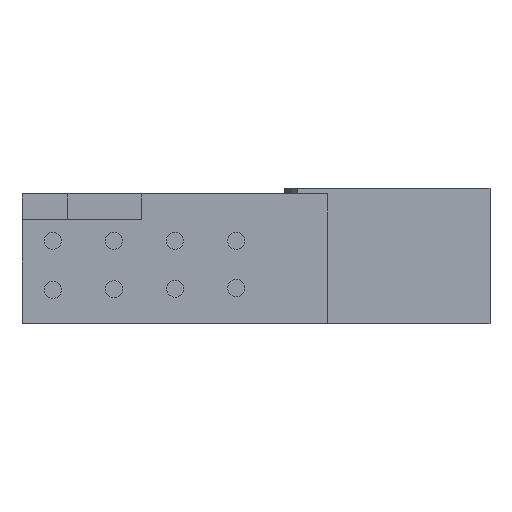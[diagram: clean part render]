
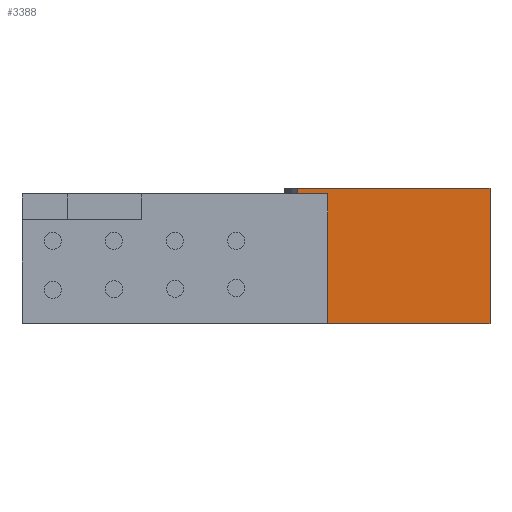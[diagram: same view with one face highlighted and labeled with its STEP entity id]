
A CAD part, left-side view. The second image highlights one B-rep face of the part: STEP entity #3388.
In plain terms, the highlighted planar face has unit normal (-1, 0, 0).
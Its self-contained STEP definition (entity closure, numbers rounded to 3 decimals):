
#20 = VECTOR ( 'NONE', #6863, 1000. ) ;
#66 = EDGE_CURVE ( 'NONE', #4797, #7690, #8136, .T. ) ;
#416 = VERTEX_POINT ( 'NONE', #1671 ) ;
#572 = LINE ( 'NONE', #6830, #4732 ) ;
#1093 = ORIENTED_EDGE ( 'NONE', *, *, #3346, .F. ) ;
#1283 = CARTESIAN_POINT ( 'NONE',  ( 18., -22.5, 6.2 ) ) ;
#1441 = CARTESIAN_POINT ( 'NONE',  ( 18., -27.5, -15. ) ) ;
#1671 = CARTESIAN_POINT ( 'NONE',  ( 18., -54., 7.1 ) ) ;
#1798 = FACE_OUTER_BOUND ( 'NONE', #5934, .T. ) ;
#2241 = LINE ( 'NONE', #3831, #6587 ) ;
#2888 = ORIENTED_EDGE ( 'NONE', *, *, #5217, .F. ) ;
#3043 = CARTESIAN_POINT ( 'NONE',  ( 18., -54., -15. ) ) ;
#3231 = CARTESIAN_POINT ( 'NONE',  ( 18., -22.5, 63.431 ) ) ;
#3284 = DIRECTION ( 'NONE',  ( 0., 1., 0. ) ) ;
#3346 = EDGE_CURVE ( 'NONE', #5206, #6946, #8955, .T. ) ;
#3369 = LINE ( 'NONE', #6215, #8991 ) ;
#3388 = ADVANCED_FACE ( 'NONE', ( #1798 ), #8153, .T. ) ;
#3485 = ORIENTED_EDGE ( 'NONE', *, *, #66, .T. ) ;
#3519 = VERTEX_POINT ( 'NONE', #9120 ) ;
#3831 = CARTESIAN_POINT ( 'NONE',  ( 18., -54., 63.431 ) ) ;
#4178 = ORIENTED_EDGE ( 'NONE', *, *, #5285, .F. ) ;
#4509 = DIRECTION ( 'NONE',  ( 0., 0., 1. ) ) ;
#4652 = CARTESIAN_POINT ( 'NONE',  ( 18., 0., 63.431 ) ) ;
#4680 = CARTESIAN_POINT ( 'NONE',  ( 18., -27.5, -15. ) ) ;
#4732 = VECTOR ( 'NONE', #3284, 1000. ) ;
#4797 = VERTEX_POINT ( 'NONE', #8002 ) ;
#4970 = VECTOR ( 'NONE', #6056, 1000. ) ;
#5206 = VERTEX_POINT ( 'NONE', #3043 ) ;
#5217 = EDGE_CURVE ( 'NONE', #416, #5206, #2241, .T. ) ;
#5285 = EDGE_CURVE ( 'NONE', #6946, #3519, #6776, .T. ) ;
#5417 = EDGE_CURVE ( 'NONE', #3519, #7690, #3369, .T. ) ;
#5515 = DIRECTION ( 'NONE',  ( 0., 1., 0. ) ) ;
#5934 = EDGE_LOOP ( 'NONE', ( #8740, #4178, #1093, #2888, #7678, #3485 ) ) ;
#6056 = DIRECTION ( 'NONE',  ( 0., 1., 0. ) ) ;
#6212 = EDGE_CURVE ( 'NONE', #416, #4797, #572, .T. ) ;
#6215 = CARTESIAN_POINT ( 'NONE',  ( 18., 0., 6.2 ) ) ;
#6587 = VECTOR ( 'NONE', #7244, 1000. ) ;
#6610 = CARTESIAN_POINT ( 'NONE',  ( 18., 0., -15. ) ) ;
#6776 = LINE ( 'NONE', #4680, #20 ) ;
#6830 = CARTESIAN_POINT ( 'NONE',  ( 18., 0., 7.1 ) ) ;
#6851 = AXIS2_PLACEMENT_3D ( 'NONE', #4652, #7311, #4509 ) ;
#6863 = DIRECTION ( 'NONE',  ( 0., 0., 1. ) ) ;
#6946 = VERTEX_POINT ( 'NONE', #1441 ) ;
#7244 = DIRECTION ( 'NONE',  ( 0., 0., -1. ) ) ;
#7311 = DIRECTION ( 'NONE',  ( -1., 0., 0. ) ) ;
#7339 = DIRECTION ( 'NONE',  ( 0., 0., -1. ) ) ;
#7678 = ORIENTED_EDGE ( 'NONE', *, *, #6212, .T. ) ;
#7690 = VERTEX_POINT ( 'NONE', #1283 ) ;
#7973 = VECTOR ( 'NONE', #7339, 1000. ) ;
#8002 = CARTESIAN_POINT ( 'NONE',  ( 18., -22.5, 7.1 ) ) ;
#8136 = LINE ( 'NONE', #3231, #7973 ) ;
#8153 = PLANE ( 'NONE',  #6851 ) ;
#8740 = ORIENTED_EDGE ( 'NONE', *, *, #5417, .F. ) ;
#8955 = LINE ( 'NONE', #6610, #4970 ) ;
#8991 = VECTOR ( 'NONE', #5515, 1000. ) ;
#9120 = CARTESIAN_POINT ( 'NONE',  ( 18., -27.5, 6.2 ) ) ;
